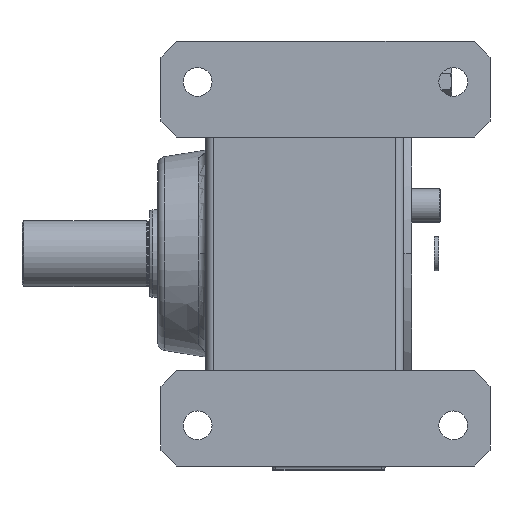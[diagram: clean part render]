
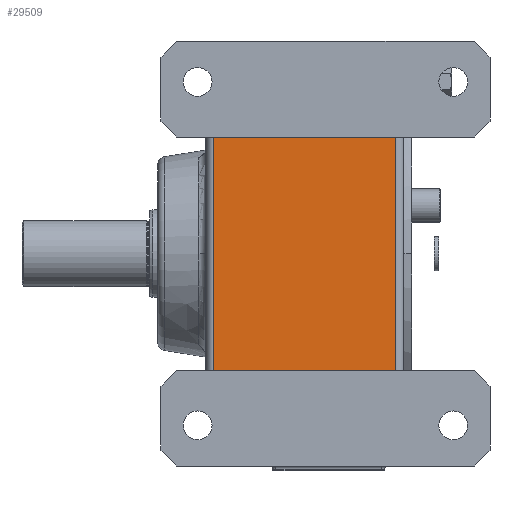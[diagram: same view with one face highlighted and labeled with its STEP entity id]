
A CAD part, front view. The second image highlights one B-rep face of the part: STEP entity #29509.
In plain terms, the highlighted planar face has unit normal (0, -1, 0).
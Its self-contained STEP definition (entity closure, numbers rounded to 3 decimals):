
#548 = LINE ( 'NONE', #549, #12705 ) ;
#549 = CARTESIAN_POINT ( 'NONE',  ( 119., -99., 73. ) ) ;
#550 = DIRECTION ( 'NONE',  ( 0., 0., 1. ) ) ;
#1902 = LINE ( 'NONE', #1903, #12521 ) ;
#1903 = CARTESIAN_POINT ( 'NONE',  ( 160.324, -99., -73. ) ) ;
#1904 = DIRECTION ( 'NONE',  ( -1., 0., 0. ) ) ;
#12521 = VECTOR ( 'NONE', #1904, 1000. ) ;
#12705 = VECTOR ( 'NONE', #550, 1000. ) ;
#13269 = EDGE_CURVE ( 'NONE', #31286, #31290, #30028, .T. ) ;
#13270 = EDGE_CURVE ( 'NONE', #31286, #31289, #30031, .T. ) ;
#15008 = CARTESIAN_POINT ( 'NONE',  ( 5., -99., 73. ) ) ;
#15010 = CARTESIAN_POINT ( 'NONE',  ( 119., -99., -73. ) ) ;
#15011 = CARTESIAN_POINT ( 'NONE',  ( 5., -99., -73. ) ) ;
#15012 = CARTESIAN_POINT ( 'NONE',  ( 119., -99., 73. ) ) ;
#16595 = PLANE ( 'NONE',  #19426 ) ;
#16596 = CARTESIAN_POINT ( 'NONE',  ( 160.324, -99., 133. ) ) ;
#16597 = DIRECTION ( 'NONE',  ( 0., 1., 0. ) ) ;
#16598 = DIRECTION ( 'NONE',  ( 0., 0., 1. ) ) ;
#19420 = FACE_OUTER_BOUND ( 'NONE', #33800, .T. ) ;
#19426 = AXIS2_PLACEMENT_3D ( 'NONE', #16596, #16597, #16598 ) ;
#29509 = ADVANCED_FACE ( 'NONE', ( #19420 ), #16595, .F. ) ;
#30028 = LINE ( 'NONE', #30029, #48690 ) ;
#30029 = CARTESIAN_POINT ( 'NONE',  ( 160.324, -99., 73. ) ) ;
#30030 = DIRECTION ( 'NONE',  ( 1., 0., 0. ) ) ;
#30031 = LINE ( 'NONE', #30032, #48692 ) ;
#30032 = CARTESIAN_POINT ( 'NONE',  ( 5., -99., -73. ) ) ;
#30033 = DIRECTION ( 'NONE',  ( 0., 0., -1. ) ) ;
#31286 = VERTEX_POINT ( 'NONE', #15008 ) ;
#31288 = VERTEX_POINT ( 'NONE', #15010 ) ;
#31289 = VERTEX_POINT ( 'NONE', #15011 ) ;
#31290 = VERTEX_POINT ( 'NONE', #15012 ) ;
#33800 = EDGE_LOOP ( 'NONE', ( #40708, #40721, #40770, #40768 ) ) ;
#35509 = EDGE_CURVE ( 'NONE', #31288, #31289, #1902, .T. ) ;
#35612 = EDGE_CURVE ( 'NONE', #31288, #31290, #548, .T. ) ;
#40708 = ORIENTED_EDGE ( 'NONE', *, *, #13269, .F. ) ;
#40721 = ORIENTED_EDGE ( 'NONE', *, *, #13270, .T. ) ;
#40768 = ORIENTED_EDGE ( 'NONE', *, *, #35612, .T. ) ;
#40770 = ORIENTED_EDGE ( 'NONE', *, *, #35509, .F. ) ;
#48690 = VECTOR ( 'NONE', #30030, 1000. ) ;
#48692 = VECTOR ( 'NONE', #30033, 1000. ) ;
